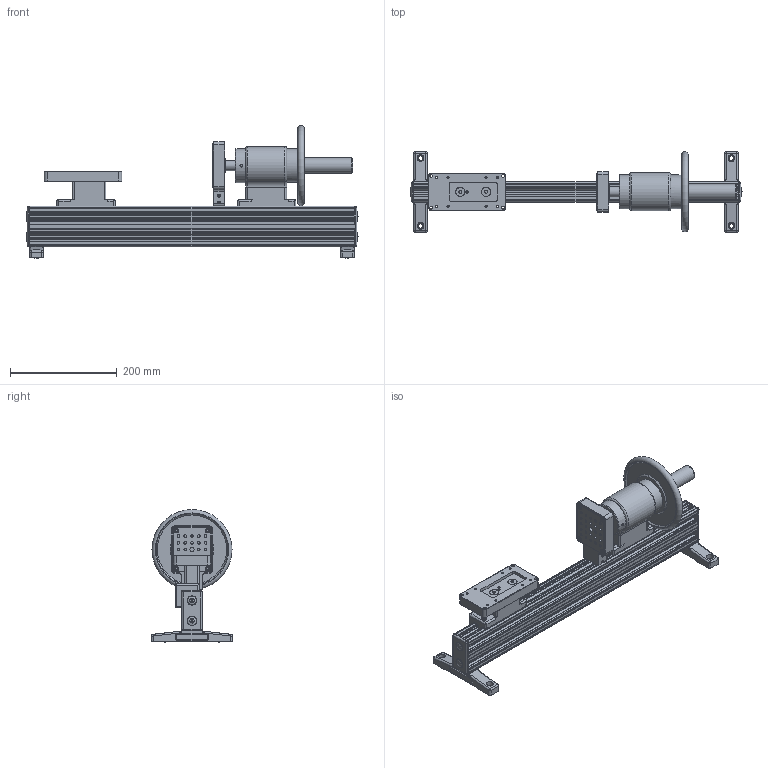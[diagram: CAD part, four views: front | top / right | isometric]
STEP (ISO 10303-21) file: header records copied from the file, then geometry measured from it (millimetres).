
FILE_DESCRIPTION((''),'2;1');
FILE_NAME('F:\CAD files\Itr\3D MARKETING MODELS\MANUAL TEST STANDS\TSC1000\TSC1000H.stp','2017-06-21T15:01:56',('mlampen'),(''),'Autodesk Inventor 2010','Autodesk Inventor 2010','');
FILE_SCHEMA(('AUTOMOTIVE_DESIGN { 1 0 10303 214 1 1 1 1 }'));
Length unit declared in the file: inch
Products named in the file (6): Assembly1; Part2; Part4; Part6; Part8; Part10
Assembly tree (5 placements, depth 2):
  Assembly1
    Part2
    Part4
    Part6
    Part8
    Part10
Bounding box: 621.18 x 151.13 x 248.66 mm (x, y, z)
Volume: 2400367 mm3; surface area: 626003.7 mm2
Topology: 6 solids, 11 shells, 1482 faces, 3913 edges, 2516 vertices
Faces by surface type: plane 677, cylinder 417, cone 301, bspline 35, sphere 32, torus 20
Full cylindrical faces by diameter (mm): 1.575 x1, 3.556 x20, 4.039 x13, 4.75 x17, 4.826 x24, 5.207 x4, 5.334 x2, 5.74 x1, 6.35 x4, 6.553 x1, 7.112 x8, 7.214 x2, 7.925 x4, 7.938 x1, 8.001 x1, 8.331 x4, 8.382 x6, 8.433 x2, 8.636 x4, 9.525 x10, 10.16 x4, 10.668 x8, 12.7 x4, 16.662 x4, 17.653 x4, 19.05 x1, 19.431 x1, 22.225 x1, 22.352 x1, 24.384 x1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
Entity records: 50911 total; most frequent: CARTESIAN_POINT 17498, ORIENTED_EDGE 6994, DIRECTION 6601, EDGE_CURVE 3497, AXIS2_PLACEMENT_3D 2584, VERTEX_POINT 2388, EDGE_LOOP 1922, FACE_OUTER_BOUND 1451
